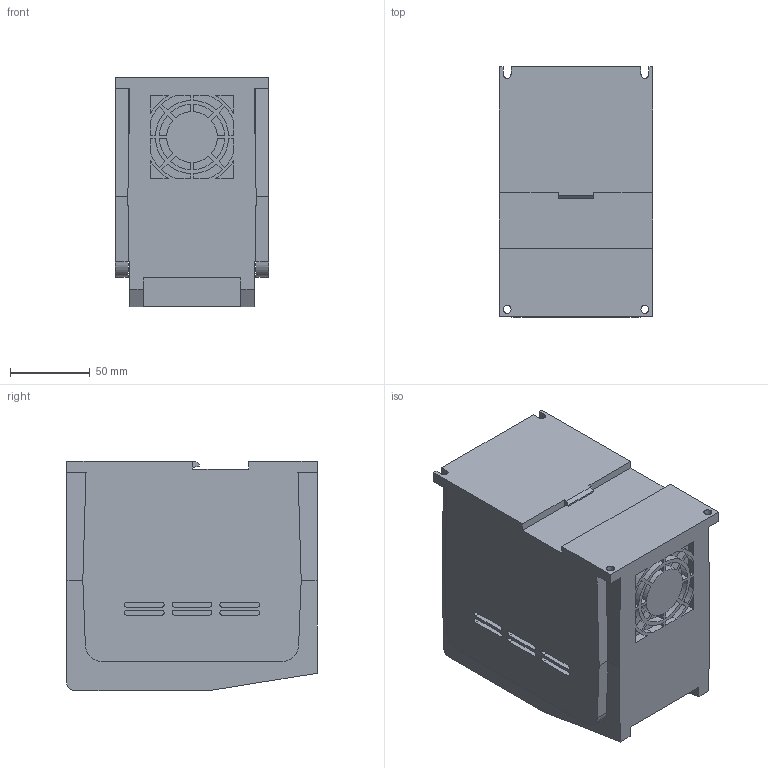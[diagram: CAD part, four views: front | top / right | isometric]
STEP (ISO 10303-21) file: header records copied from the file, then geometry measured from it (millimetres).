
FILE_DESCRIPTION(('STEP AP203'), '1');
FILE_NAME('Ïðåîáðàçîâàòåëü ÷àñòîòû E550-2S0022B', '', ('UNSPECIFIED'), ('UNSPECIFIED'), 'ASCON STEP Converter 1.6', 'ASCON Math Kernel', '');
FILE_SCHEMA(('CONFIG_CONTROL_DESIGN'));
Length unit declared in the file: millimetre
Products named in the file (8): KF350; User Library-TERMINAL BLOCKS
Assembly tree (13 placements, depth 3):
  (unnamed)
    (unnamed)
    (unnamed)
      KF350  x7
      KF350
      (unnamed)
    User Library-TERMINAL BLOCKS
    (unnamed)
Bounding box: 96 x 157 x 144 mm (x, y, z)
Volume: 1818632.4 mm3; surface area: 187899.9 mm2
Topology: 78 solids, 78 shells, 4338 faces, 12016 edges, 8034 vertices
Faces by surface type: plane 2170, cylinder 2168
Full cylindrical faces by diameter (mm): 1.89 x8, 2 x15, 2.305 x9, 2.8 x15, 3.81 x18, 5 x2, 5.334 x18
Entity records: 165875 total; most frequent: DIRECTION 24143, CARTESIAN_POINT 23443, ORIENTED_EDGE 22974, EDGE_CURVE 11487, AXIS2_PLACEMENT_3D 8526, VERTEX_POINT 7697, LINE 7091, VECTOR 7091
